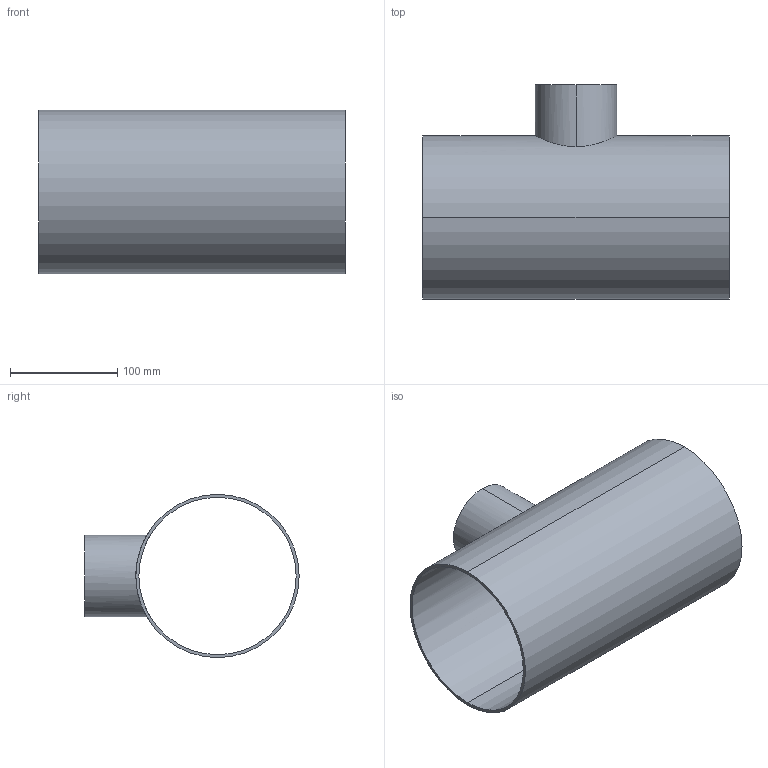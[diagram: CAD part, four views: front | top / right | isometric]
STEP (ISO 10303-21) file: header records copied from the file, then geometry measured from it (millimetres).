
FILE_DESCRIPTION (( 'STEP AP214' ), '1' );
FILE_NAME ('TE7RWWW6L6.0x3.0-...STEP', '2016-05-24T04:36:14', ( 'eran' ), ( '' ), 'SwSTEP 2.0', 'SolidWorks 2016', '' );
FILE_SCHEMA (( 'AUTOMOTIVE_DESIGN' ));
Length unit declared in the file: millimetre
Products named in the file (1): TE7RWWW6L6.0x3.0-..
Bounding box: 285.8 x 200 x 152.4 mm (x, y, z)
Volume: 380448.7 mm3; surface area: 287872 mm2
Topology: 1 solids, 1 shells, 11 faces, 24 edges, 16 vertices
Faces by surface type: cylinder 8, plane 3
Entity records: 624 total; most frequent: CARTESIAN_POINT 332, DIRECTION 56, ORIENTED_EDGE 48, AXIS2_PLACEMENT_3D 24, EDGE_CURVE 24, VERTEX_POINT 16, EDGE_LOOP 16, CIRCLE 12
